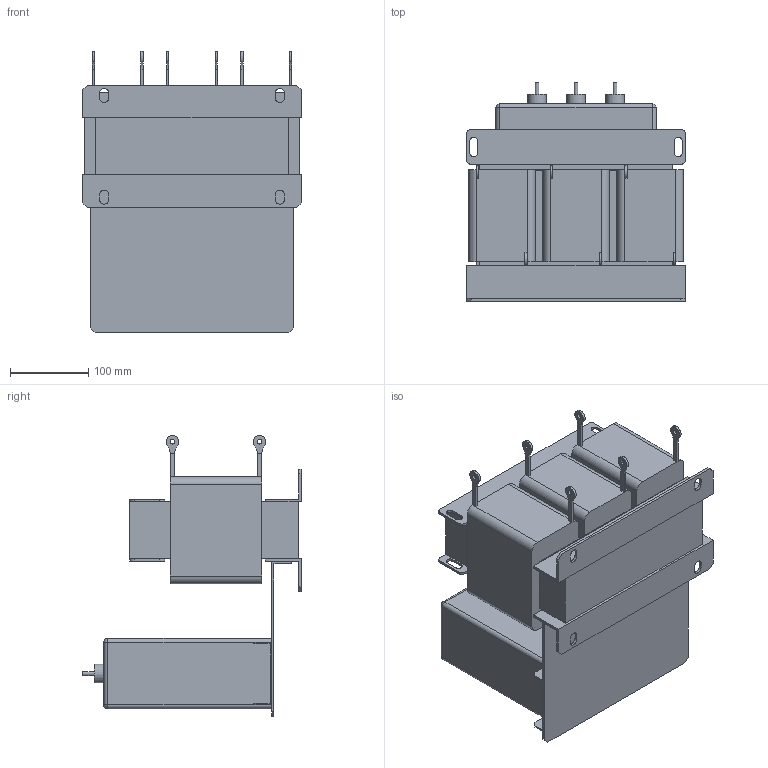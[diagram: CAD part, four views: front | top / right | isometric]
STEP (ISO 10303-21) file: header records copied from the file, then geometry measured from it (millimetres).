
FILE_DESCRIPTION(/* description */ (''),/* implementation_level */ '2;1');
FILE_NAME(/* name */ 'Sin-T6-040.stp',/* time_stamp */ '2025-03-05T16:26:04+04:00',/* author */ ('Лео'),/* organization */ (''),/* preprocessor_version */ 'ST-DEVELOPER v19.2',/* originating_system */ 'Autodesk Inventor 2024',/* authorisation */ '');
FILE_SCHEMA (('AUTOMOTIVE_DESIGN { 1 0 10303 214 3 1 1 }'));
Length unit declared in the file: millimetre
Products named in the file (1): Sin-T6-040
Bounding box: 280 x 280 x 360 mm (x, y, z)
Volume: 10270024.7 mm3; surface area: 812637.6 mm2
Topology: 25 solids, 25 shells, 258 faces, 606 edges, 398 vertices
Faces by surface type: plane 176, cylinder 78, sphere 4
Full cylindrical faces by diameter (mm): 5 x3, 6 x6, 24 x3
Entity records: 7445 total; most frequent: DIRECTION 1280, CARTESIAN_POINT 1263, ORIENTED_EDGE 1212, EDGE_CURVE 606, LINE 450, VECTOR 450, AXIS2_PLACEMENT_3D 415, VERTEX_POINT 398
